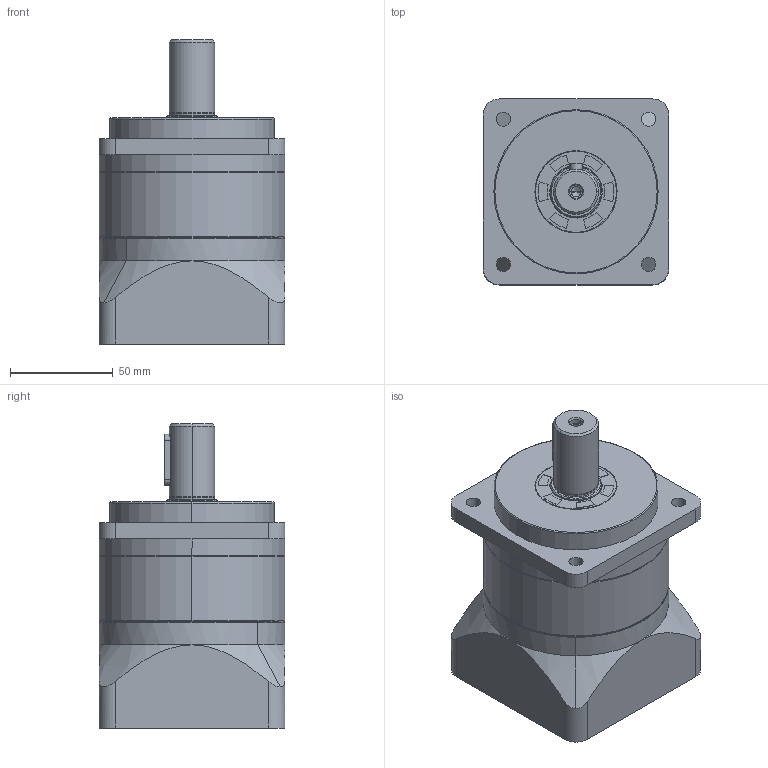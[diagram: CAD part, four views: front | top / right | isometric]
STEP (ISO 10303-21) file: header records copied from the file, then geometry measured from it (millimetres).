
FILE_DESCRIPTION (( 'STEP AP203' ), '1' );
FILE_NAME ('SA90-L1(12.7-73-98.7-M5).STEP', '2021-12-14T05:34:15', ( '' ), ( '' ), 'SwSTEP 2.0', 'SolidWorks 2016', '' );
FILE_SCHEMA (( 'CONFIG_CONTROL_DESIGN' ));
Length unit declared in the file: millimetre
Products named in the file (10): SN90-48x27x15-M6; SA90-(80x10-100-7); SN90-25x40x5; SN90-(73-98.7-M5); SN90; SN90-(22x37-6x25); SA90-L1(12.7-73-98.7-M5); SN90-(19); DP90; 90-(o19-12.7x26)
Assembly tree (9 placements, depth 2):
  SA90-L1(12.7-73-98.7-M5)
    SA90-(80x10-100-7)
    SN90-25x40x5
    SN90-(22x37-6x25)
    SN90
    DP90
    SN90-(73-98.7-M5)
    SN90-(19)
    SN90-48x27x15-M6
    90-(o19-12.7x26)
Bounding box: 90.5 x 90.5 x 148.1 mm (x, y, z)
Volume: 698055.8 mm3; surface area: 135841.6 mm2
Topology: 11 solids, 11 shells, 451 faces, 1157 edges, 737 vertices
Faces by surface type: cylinder 250, plane 118, cone 47, bspline 30, torus 6
Entity records: 31710 total; most frequent: CARTESIAN_POINT 20107, ORIENTED_EDGE 2270, DIRECTION 2162, EDGE_CURVE 1135, AXIS2_PLACEMENT_3D 849, VERTEX_POINT 737, EDGE_LOOP 542, LINE 464
